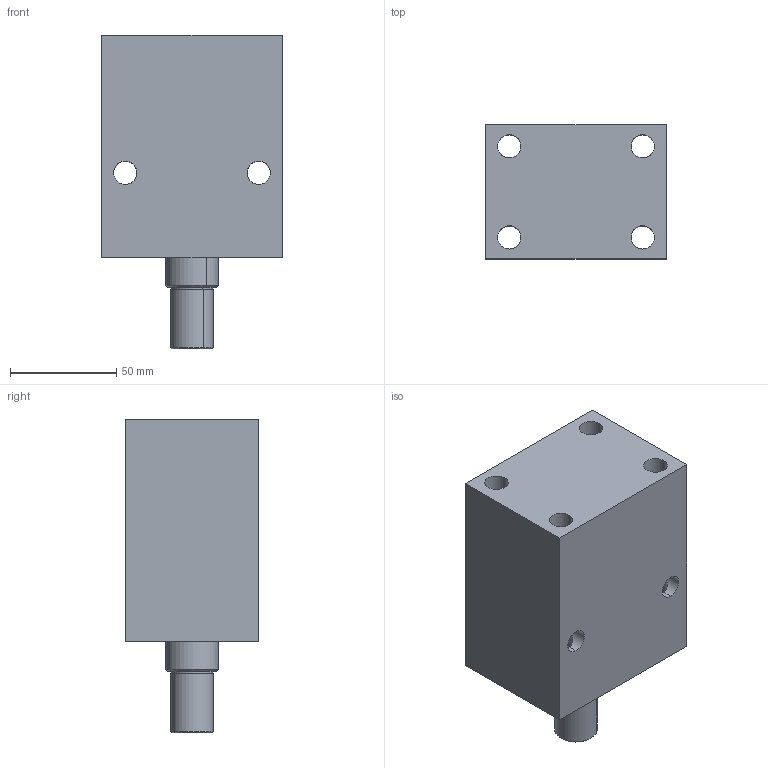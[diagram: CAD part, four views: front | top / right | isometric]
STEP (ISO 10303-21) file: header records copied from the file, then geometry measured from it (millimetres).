
FILE_DESCRIPTION (( 'STEP AP203' ), '1' );
FILE_NAME ('Block cylinder_B01C-350M.STEP', '2022-07-09T18:11:29', ( '' ), ( '' ), 'SwSTEP 2.0', 'SolidWorks 2017', '' );
FILE_SCHEMA (( 'CONFIG_CONTROL_DESIGN' ));
Length unit declared in the file: millimetre
Products named in the file (3): Body_350M_50ST; Piston_350M_50sT; Block cylinder_B01C-350M
Assembly tree (2 placements, depth 2):
  Block cylinder_B01C-350M
    Body_350M_50ST
    Piston_350M_50sT
Bounding box: 85 x 63 x 148 mm (x, y, z)
Volume: 535641.4 mm3; surface area: 72946 mm2
Topology: 2 solids, 2 shells, 359 faces, 979 edges, 640 vertices
Faces by surface type: bspline 166, plane 139, cylinder 46, cone 8
Entity records: 18210 total; most frequent: CARTESIAN_POINT 10009, ORIENTED_EDGE 1950, DIRECTION 1071, EDGE_CURVE 975, VERTEX_POINT 640, VECTOR 547, LINE 547, EDGE_LOOP 399
